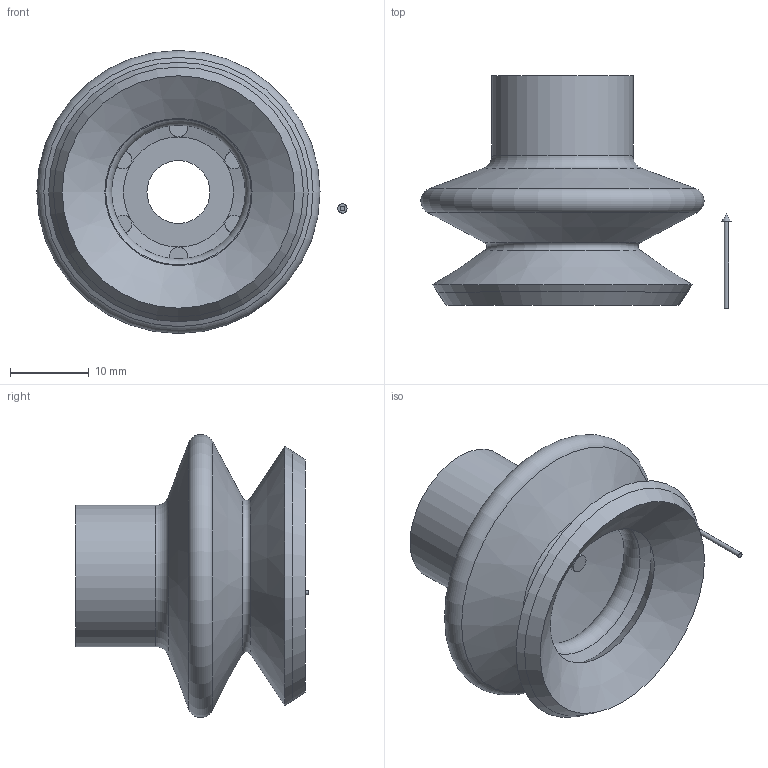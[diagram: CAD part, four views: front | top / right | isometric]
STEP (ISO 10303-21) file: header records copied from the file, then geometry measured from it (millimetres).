
FILE_DESCRIPTION(('STEP AP214'),'1');
FILE_NAME('CA.08.26.D33.AS.stp','2019-04-17T13:02:16',(' '),(' '),'Spatial InterOp 3D',' ',' ');
FILE_SCHEMA(('AUTOMOTIVE_DESIGN { 1 0 10303 214 1 1 1 1 }'));
Length unit declared in the file: millimetre
Products named in the file (4): CA.08.26.D33.AS; FRECCIA.12; 08.26.D33; 08.26.D33.AS
Assembly tree (3 placements, depth 2):
  CA.08.26.D33.AS
    FRECCIA.12
    08.26.D33
    08.26.D33.AS
Bounding box: 39.44 x 29.55 x 36 mm (x, y, z)
Volume: 6701 mm3; surface area: 7678.7 mm2
Topology: 3 solids, 3 shells, 36 faces, 75 edges, 43 vertices
Faces by surface type: cone 12, plane 10, cylinder 9, torus 5
Full cylindrical faces by diameter (mm): 0.6 x1, 2.24 x6, 8 x1, 18 x1
Entity records: 1305 total; most frequent: CARTESIAN_POINT 313, DIRECTION 148, ORIENTED_EDGE 80, AXIS2_PLACEMENT_3D 74, EDGE_LOOP 64, FACE_OUTER_BOUND 50, EDGE_CURVE 40, STYLED_ITEM 36
